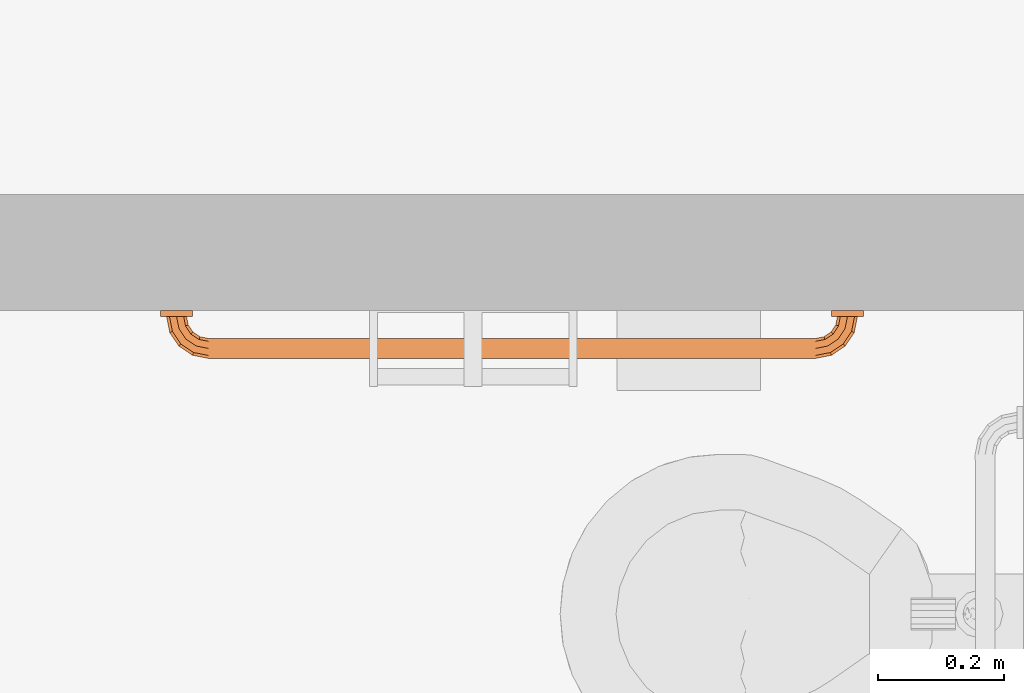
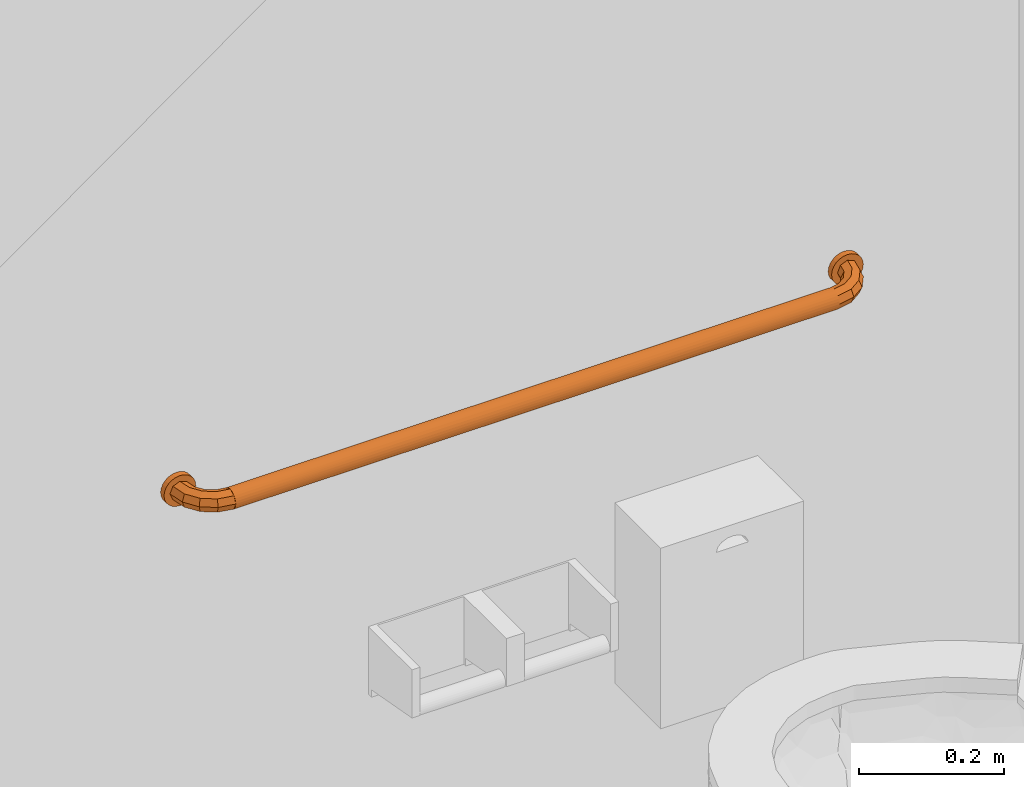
# One storey, part 139 of 142: 1 proxy.
"""IFC2X3 building model written with IfcOpenShell, lengths in feet."""

from ifc_helpers import new_model, entity, si_unit, converted_unit, derived_unit, direction, frame, origin, place, context, subcontext, project, spatial, faceted_brep, source, transform, mapped, type_object, type_shapes, element, save


model = new_model("IFC2X3")

# Units and contexts
model_context = context("Model", 3, precision=0.0001, world=origin(), true_north=direction((6.12303176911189e-17, 1.0)))
body_context = subcontext(model_context, "Body", "Model", "MODEL_VIEW")
ifc_project = project(units=[converted_unit("LENGTHUNIT", "FOOT", entity("IfcRatioMeasure", 0.3048), si_unit("LENGTHUNIT", "METRE"), dimensions=[1, 0, 0, 0, 0, 0, 0]), converted_unit("AREAUNIT", "SQUARE FOOT", entity("IfcRatioMeasure", 0.09290304), si_unit("AREAUNIT", "SQUARE_METRE"), dimensions=[2, 0, 0, 0, 0, 0, 0]), converted_unit("VOLUMEUNIT", "CUBIC FOOT", entity("IfcRatioMeasure", 0.028316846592), si_unit("VOLUMEUNIT", "CUBIC_METRE"), dimensions=[3, 0, 0, 0, 0, 0, 0]), converted_unit("PLANEANGLEUNIT", "DEGREE", entity("IfcRatioMeasure", 0.0174532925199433), si_unit("PLANEANGLEUNIT", "RADIAN"), dimensions=[0, 0, 0, 0, 0, 0, 0]), si_unit("MASSUNIT", "GRAM", prefix="KILO"), derived_unit("MASSDENSITYUNIT", [(si_unit("MASSUNIT", "GRAM", prefix="KILO"), 1), (si_unit("LENGTHUNIT", "METRE"), -3)]), si_unit("TIMEUNIT", "SECOND"), si_unit("FREQUENCYUNIT", "HERTZ"), si_unit("THERMODYNAMICTEMPERATUREUNIT", "DEGREE_CELSIUS"), derived_unit("THERMALTRANSMITTANCEUNIT", [(si_unit("MASSUNIT", "GRAM", prefix="KILO"), 1), (si_unit("THERMODYNAMICTEMPERATUREUNIT", "KELVIN"), -1), (si_unit("TIMEUNIT", "SECOND"), -3)]), derived_unit("VOLUMETRICFLOWRATEUNIT", [(si_unit("LENGTHUNIT", "METRE"), 3), (si_unit("TIMEUNIT", "SECOND"), -1)]), si_unit("ELECTRICCURRENTUNIT", "AMPERE"), si_unit("ELECTRICVOLTAGEUNIT", "VOLT"), si_unit("POWERUNIT", "WATT"), si_unit("FORCEUNIT", "NEWTON"), si_unit("ILLUMINANCEUNIT", "LUX"), si_unit("LUMINOUSFLUXUNIT", "LUMEN"), si_unit("LUMINOUSINTENSITYUNIT", "CANDELA"), derived_unit("USERDEFINED", [(si_unit("MASSUNIT", "GRAM", prefix="KILO"), -1), (si_unit("LENGTHUNIT", "METRE"), -2), (si_unit("TIMEUNIT", "SECOND"), 3), (si_unit("LUMINOUSFLUXUNIT", "LUMEN"), 1)]), derived_unit("LINEARVELOCITYUNIT", [(si_unit("LENGTHUNIT", "METRE"), 1), (si_unit("TIMEUNIT", "SECOND"), -1)]), si_unit("PRESSUREUNIT", "PASCAL"), derived_unit("USERDEFINED", [(si_unit("LENGTHUNIT", "METRE"), -2), (si_unit("MASSUNIT", "GRAM", prefix="KILO"), 1), (si_unit("TIMEUNIT", "SECOND"), -2)])], contexts=[model_context])

# Site, building, storey, space
site_placement = place(None, origin())
site = spatial("IfcSite", under=ifc_project, at=site_placement, Name="Default", CompositionType="ELEMENT")
building_placement = place(site_placement, origin())
building = spatial("IfcBuilding", under=site, at=building_placement, Name="OUTPATIENT / PACT CLINIC (Ch. 265)", CompositionType="ELEMENT")
storey_placement = place(building_placement, origin())
storey = spatial("IfcBuildingStorey", under=building, at=storey_placement, Name="LEVEL 1", CompositionType="ELEMENT", Elevation=0.0)
space_placement = place(storey_placement, origin())
space = spatial("IfcSpace", under=storey, at=space_placement, Name="TNPG1", CompositionType="ELEMENT", InteriorOrExteriorSpace="INTERNAL")

# Proxy
building_element_proxy_type = type_object("IfcBuildingElementProxyType", Name="A5109 - Grab Bar, 1.25 in Dia, SS, 2 Wall, W-C Accessible_Improved 2", PredefinedType="NOTDEFINED")
shared_shape = source(origin(), body_context, "Body", "Brep", [
    faceted_brep([(0.897113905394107, -0.185229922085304, 0.05208333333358), (0.883020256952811, -0.151204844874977, 0.0368284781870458), (0.833333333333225, -0.161088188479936, 0.0368284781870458), (0.8333333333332, -0.197916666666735, 0.05208333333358), (0.877182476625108, -0.137111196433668, 0.0), (0.833333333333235, -0.145833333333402, 0.0), (0.883020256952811, -0.151204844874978, -0.0368284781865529), (0.833333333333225, -0.161088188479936, -0.0368284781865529), (0.897113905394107, -0.185229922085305, -0.0520833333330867), (0.8333333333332, -0.197916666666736, -0.0520833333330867), (0.911207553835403, -0.219254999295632, -0.0368284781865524), (0.833333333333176, -0.234745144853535, -0.0368284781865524), (0.917045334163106, -0.233348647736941, 0.0), (0.833333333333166, -0.250000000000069, 0.0), (0.911207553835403, -0.219254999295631, 0.0368284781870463), (0.833333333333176, -0.234745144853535, 0.0368284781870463), (0.951184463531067, -0.149101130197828, 0.05208333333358), (0.925142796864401, -0.123059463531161, 0.0368284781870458), (0.914355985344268, -0.112272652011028, 0.0), (0.925142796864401, -0.123059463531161, -0.0368284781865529), (0.951184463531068, -0.149101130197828, -0.0520833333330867), (0.977226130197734, -0.175142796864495, -0.0368284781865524), (0.988012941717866, -0.185929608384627, 0.0), (0.977226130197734, -0.175142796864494, 0.0368284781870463), (0.987313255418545, -0.0950305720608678, 0.05208333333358), (0.953288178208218, -0.0809369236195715, 0.0368284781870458), (0.939194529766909, -0.0750991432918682, 0.0), (0.953288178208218, -0.0809369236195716, -0.0368284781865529), (0.987313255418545, -0.0950305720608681, -0.0520833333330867), (1.02133833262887, -0.109124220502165, -0.0368284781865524), (1.03543198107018, -0.114962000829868, 0.0), (1.02133833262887, -0.109124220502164, 0.0368284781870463), (1.0, -0.0312499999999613, 0.05208333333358), (0.963171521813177, -0.031249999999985, 0.0368284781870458), (0.947916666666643, -0.0312499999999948, 0.0), (0.963171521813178, -0.031249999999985, -0.0368284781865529), (1.0, -0.0312499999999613, -0.0520833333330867), (1.03682847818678, -0.0312499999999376, -0.0368284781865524), (1.05208333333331, -0.0312499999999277, 0.0), (1.03682847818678, -0.0312499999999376, 0.0368284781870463)], [[[0, 1, 2, 3]], [[1, 4, 5, 2]], [[4, 6, 7, 5]], [[6, 8, 9, 7]], [[8, 10, 11, 9]], [[10, 12, 13, 11]], [[12, 14, 15, 13]], [[14, 0, 3, 15]], [[16, 17, 1, 0]], [[17, 18, 4, 1]], [[18, 19, 6, 4]], [[19, 20, 8, 6]], [[20, 21, 10, 8]], [[21, 22, 12, 10]], [[22, 23, 14, 12]], [[23, 16, 0, 14]], [[24, 25, 17, 16]], [[25, 26, 18, 17]], [[26, 27, 19, 18]], [[27, 28, 20, 19]], [[28, 29, 21, 20]], [[29, 30, 22, 21]], [[30, 31, 23, 22]], [[31, 24, 16, 23]], [[32, 33, 25, 24]], [[33, 34, 26, 25]], [[34, 35, 27, 26]], [[35, 36, 28, 27]], [[36, 37, 29, 28]], [[37, 38, 30, 29]], [[38, 39, 31, 30]], [[39, 32, 24, 31]], [[3, 2, 5, 7, 9, 11, 13, 15]], [[39, 38, 37, 36, 35, 34, 33, 32]]]),
    faceted_brep([(0.978431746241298, -0.0312499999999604, -0.0804938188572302), (1.0, -0.0312499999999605, -0.0833333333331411), (1.02156825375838, -0.0312499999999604, -0.08049381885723), (1.04166666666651, -0.0312499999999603, -0.0721687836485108), (1.05892556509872, -0.0312499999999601, -0.0589255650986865), (1.07216878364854, -0.0312499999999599, -0.0416666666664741), (1.08049381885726, -0.0312499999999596, -0.0215682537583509), (1.08333333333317, -0.0312499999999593, 0.0), (1.08049381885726, -0.031249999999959, 0.0215682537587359), (1.07216878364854, -0.0312499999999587, 0.0416666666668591), (1.05892556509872, -0.0312499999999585, 0.0589255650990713), (1.04166666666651, -0.0312499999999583, 0.0721687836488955), (1.02156825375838, -0.0312499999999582, 0.0804938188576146), (1.0, -0.0312499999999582, 0.0833333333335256), (0.978431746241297, -0.0312499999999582, 0.0804938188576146), (0.958333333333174, -0.0312499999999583, 0.0721687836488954), (0.941074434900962, -0.0312499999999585, 0.0589255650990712), (0.927831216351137, -0.0312499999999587, 0.0416666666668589), (0.919506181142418, -0.031249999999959, 0.0215682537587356), (0.916666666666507, -0.0312499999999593, 0.0), (0.919506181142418, -0.0312499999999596, -0.0215682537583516), (0.927831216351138, -0.0312499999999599, -0.0416666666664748), (0.941074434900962, -0.0312499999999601, -0.058925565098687), (0.958333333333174, -0.0312499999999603, -0.0721687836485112), (1.0, 0.0, 0.0833333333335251), (1.02156825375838, 0.0, 0.0804938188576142), (1.04166666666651, 0.0, 0.0721687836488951), (1.05892556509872, 0.0, 0.0589255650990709), (1.07216878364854, 0.0, 0.0416666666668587), (1.08049381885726, 0.0, 0.0215682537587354), (1.08333333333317, 0.0, 0.0), (1.08049381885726, 0.0, -0.0215682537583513), (1.07216878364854, 0.0, -0.0416666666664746), (1.05892556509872, 0.0, -0.0589255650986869), (1.04166666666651, 0.0, -0.0721687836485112), (1.02156825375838, 0.0, -0.0804938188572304), (1.0, 0.0, -0.0833333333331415), (0.978431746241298, 0.0, -0.0804938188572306), (0.958333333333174, 0.0, -0.0721687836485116), (0.941074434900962, 0.0, -0.0589255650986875), (0.927831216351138, 0.0, -0.0416666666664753), (0.919506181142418, 0.0, -0.0215682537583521), (0.916666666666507, 0.0, 0.0), (0.919506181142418, 0.0, 0.0215682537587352), (0.927831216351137, 0.0, 0.0416666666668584), (0.941074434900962, 0.0, 0.0589255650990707), (0.958333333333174, 0.0, 0.072168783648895), (0.978431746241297, 0.0, 0.0804938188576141)], [[[0, 1, 2, 3, 4, 5, 6, 7, 8, 9, 10, 11, 12, 13, 14, 15, 16, 17, 18, 19, 20, 21, 22, 23]], [[24, 25, 26, 27, 28, 29, 30, 31, 32, 33, 34, 35, 36, 37, 38, 39, 40, 41, 42, 43, 44, 45, 46, 47]], [[30, 7, 6, 31]], [[31, 6, 5, 32]], [[34, 33, 4, 3]], [[4, 33, 32, 5]], [[35, 34, 3, 2]], [[35, 2, 1, 36]], [[36, 1, 0, 37]], [[37, 0, 23, 38]], [[40, 39, 22, 21]], [[22, 39, 38, 23]], [[41, 40, 21, 20]], [[41, 20, 19, 42]], [[42, 19, 18, 43]], [[43, 18, 17, 44]], [[46, 45, 16, 15]], [[16, 45, 44, 17]], [[47, 46, 15, 14]], [[47, 14, 13, 24]], [[24, 13, 12, 25]], [[25, 12, 11, 26]], [[28, 27, 10, 9]], [[10, 27, 26, 11]], [[29, 28, 9, 8]], [[29, 8, 7, 30]]]),
    faceted_brep([(-2.4873132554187, -0.0950305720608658, 0.0520833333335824), (-2.45328817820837, -0.0809369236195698, 0.0368284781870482), (-2.46317152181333, -0.0312499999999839, 0.0368284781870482), (-2.50000000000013, -0.0312499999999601, 0.0520833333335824), (-2.43919452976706, -0.0750991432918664, 0.0), (-2.4479166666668, -0.0312499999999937, 0.0), (-2.45328817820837, -0.0809369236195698, -0.0368284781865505), (-2.46317152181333, -0.0312499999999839, -0.0368284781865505), (-2.4873132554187, -0.0950305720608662, -0.0520833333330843), (-2.50000000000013, -0.0312499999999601, -0.0520833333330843), (-2.52133833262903, -0.109124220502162, -0.03682847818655), (-2.53682847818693, -0.0312499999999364, -0.03682847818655), (-2.53543198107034, -0.114962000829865, 0.0), (-2.55208333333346, -0.0312499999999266, 0.0), (-2.52133833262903, -0.109124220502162, 0.0368284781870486), (-2.53682847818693, -0.0312499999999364, 0.0368284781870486), (-2.45118446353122, -0.149101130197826, 0.0520833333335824), (-2.42514279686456, -0.123059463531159, 0.0368284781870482), (-2.41435598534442, -0.112272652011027, 0.0), (-2.42514279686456, -0.123059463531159, -0.0368284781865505), (-2.45118446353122, -0.149101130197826, -0.0520833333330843), (-2.47722613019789, -0.175142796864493, -0.03682847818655), (-2.48801294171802, -0.185929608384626, 0.0), (-2.47722613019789, -0.175142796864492, 0.0368284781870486), (-2.39711390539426, -0.185229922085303, 0.0520833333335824), (-2.38302025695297, -0.151204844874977, 0.0368284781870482), (-2.37718247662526, -0.137111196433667, 0.0), (-2.38302025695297, -0.151204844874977, -0.0368284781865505), (-2.39711390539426, -0.185229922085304, -0.0520833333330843), (-2.41120755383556, -0.219254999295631, -0.03682847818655), (-2.41704533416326, -0.23334864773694, 0.0), (-2.41120755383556, -0.21925499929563, 0.0368284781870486), (-2.33333333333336, -0.197916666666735, 0.0520833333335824), (-2.33333333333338, -0.161088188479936, 0.0368284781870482), (-2.33333333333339, -0.145833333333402, 0.0), (-2.33333333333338, -0.161088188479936, -0.0368284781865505), (-2.33333333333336, -0.197916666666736, -0.0520833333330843), (-2.33333333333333, -0.234745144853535, -0.03682847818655), (-2.33333333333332, -0.250000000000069, 0.0), (-2.33333333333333, -0.234745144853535, 0.0368284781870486)], [[[0, 1, 2, 3]], [[1, 4, 5, 2]], [[4, 6, 7, 5]], [[6, 8, 9, 7]], [[8, 10, 11, 9]], [[10, 12, 13, 11]], [[12, 14, 15, 13]], [[14, 0, 3, 15]], [[16, 17, 1, 0]], [[17, 18, 4, 1]], [[18, 19, 6, 4]], [[19, 20, 8, 6]], [[20, 21, 10, 8]], [[21, 22, 12, 10]], [[22, 23, 14, 12]], [[23, 16, 0, 14]], [[24, 25, 17, 16]], [[25, 26, 18, 17]], [[26, 27, 19, 18]], [[27, 28, 20, 19]], [[28, 29, 21, 20]], [[29, 30, 22, 21]], [[30, 31, 23, 22]], [[31, 24, 16, 23]], [[32, 33, 25, 24]], [[33, 34, 26, 25]], [[34, 35, 27, 26]], [[35, 36, 28, 27]], [[36, 37, 29, 28]], [[37, 38, 30, 29]], [[38, 39, 31, 30]], [[39, 32, 24, 31]], [[3, 2, 5, 7, 9, 11, 13, 15]], [[39, 38, 37, 36, 35, 34, 33, 32]]]),
    faceted_brep([(-2.45833333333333, -0.0312499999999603, -0.0721687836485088), (-2.44107443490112, -0.0312499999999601, -0.0589255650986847), (-2.42783121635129, -0.0312499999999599, -0.0416666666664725), (-2.41950618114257, -0.0312499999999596, -0.0215682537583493), (-2.41666666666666, -0.0312499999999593, 0.0), (-2.41950618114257, -0.031249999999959, 0.021568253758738), (-2.42783121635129, -0.0312499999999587, 0.0416666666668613), (-2.44107443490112, -0.0312499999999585, 0.0589255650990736), (-2.45833333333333, -0.0312499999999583, 0.0721687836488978), (-2.47843174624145, -0.0312499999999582, 0.080493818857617), (-2.49999999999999, -0.0312499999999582, 0.083333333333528), (-2.52156825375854, -0.0312499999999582, 0.080493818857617), (-2.54166666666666, -0.0312499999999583, 0.0721687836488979), (-2.55892556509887, -0.0312499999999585, 0.0589255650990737), (-2.5721687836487, -0.0312499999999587, 0.0416666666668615), (-2.58049381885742, -0.031249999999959, 0.0215682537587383), (-2.58333333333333, -0.0312499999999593, 0.0), (-2.58049381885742, -0.0312499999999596, -0.0215682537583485), (-2.5721687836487, -0.0312499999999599, -0.0416666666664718), (-2.55892556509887, -0.0312499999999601, -0.0589255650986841), (-2.54166666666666, -0.0312499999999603, -0.0721687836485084), (-2.52156825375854, -0.0312499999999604, -0.0804938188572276), (-2.5, -0.0312499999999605, -0.0833333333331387), (-2.47843174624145, -0.0312499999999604, -0.0804938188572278), (-2.47843174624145, 0.0, 0.0804938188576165), (-2.45833333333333, 0.0, 0.0721687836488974), (-2.44107443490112, 0.0, 0.0589255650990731), (-2.42783121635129, 0.0, 0.0416666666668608), (-2.41950618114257, 0.0, 0.0215682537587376), (-2.41666666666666, 0.0, 0.0), (-2.41950618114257, 0.0, -0.0215682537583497), (-2.42783121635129, 0.0, -0.0416666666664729), (-2.44107443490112, 0.0, -0.0589255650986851), (-2.45833333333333, 0.0, -0.0721687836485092), (-2.47843174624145, 0.0, -0.0804938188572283), (-2.5, 0.0, -0.0833333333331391), (-2.52156825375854, 0.0, -0.0804938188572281), (-2.54166666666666, 0.0, -0.0721687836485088), (-2.55892556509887, 0.0, -0.0589255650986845), (-2.5721687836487, 0.0, -0.0416666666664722), (-2.58049381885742, 0.0, -0.0215682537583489), (-2.58333333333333, 0.0, 0.0), (-2.58049381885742, 0.0, 0.0215682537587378), (-2.5721687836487, 0.0, 0.0416666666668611), (-2.55892556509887, 0.0, 0.0589255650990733), (-2.54166666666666, 0.0, 0.0721687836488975), (-2.52156825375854, 0.0, 0.0804938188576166), (-2.49999999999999, 0.0, 0.0833333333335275)], [[[0, 1, 2, 3, 4, 5, 6, 7, 8, 9, 10, 11, 12, 13, 14, 15, 16, 17, 18, 19, 20, 21, 22, 23]], [[24, 25, 26, 27, 28, 29, 30, 31, 32, 33, 34, 35, 36, 37, 38, 39, 40, 41, 42, 43, 44, 45, 46, 47]], [[40, 17, 16, 41]], [[39, 18, 17, 40]], [[20, 19, 38, 37]], [[39, 38, 19, 18]], [[21, 20, 37, 36]], [[22, 21, 36, 35]], [[34, 23, 22, 35]], [[33, 0, 23, 34]], [[2, 1, 32, 31]], [[33, 32, 1, 0]], [[3, 2, 31, 30]], [[4, 3, 30, 29]], [[28, 5, 4, 29]], [[27, 6, 5, 28]], [[8, 7, 26, 25]], [[27, 26, 7, 6]], [[9, 8, 25, 24]], [[10, 9, 24, 47]], [[46, 11, 10, 47]], [[45, 12, 11, 46]], [[14, 13, 44, 43]], [[45, 44, 13, 12]], [[15, 14, 43, 42]], [[16, 15, 42, 41]]]),
    faceted_brep([(0.833333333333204, -0.171875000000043, 0.0451054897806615), (0.833333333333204, -0.18443650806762, 0.0503086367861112), (0.833333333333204, -0.19791666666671, 0.0520833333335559), (0.833333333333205, -0.211396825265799, 0.0503086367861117), (0.833333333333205, -0.223958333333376, 0.0451054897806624), (0.833333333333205, -0.234745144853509, 0.0368284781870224), (0.833333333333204, -0.24302215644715, 0.0260416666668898), (0.833333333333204, -0.248225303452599, 0.0134801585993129), (0.833333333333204, -0.250000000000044, 0.0), (0.833333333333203, -0.2482253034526, -0.0134801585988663), (0.833333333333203, -0.24302215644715, -0.0260416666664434), (0.833333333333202, -0.23474514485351, -0.0368284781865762), (0.833333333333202, -0.223958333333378, -0.0451054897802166), (0.833333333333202, -0.211396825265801, -0.0503086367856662), (0.833333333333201, -0.197916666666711, -0.0520833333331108), (0.833333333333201, -0.184436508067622, -0.0503086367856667), (0.833333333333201, -0.171875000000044, -0.0451054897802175), (0.833333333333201, -0.161088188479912, -0.0368284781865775), (0.833333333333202, -0.152811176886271, -0.026041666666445), (0.833333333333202, -0.147608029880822, -0.013480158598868), (0.833333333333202, -0.145833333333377, 0.0), (0.833333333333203, -0.147608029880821, 0.0134801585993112), (0.833333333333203, -0.15281117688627, 0.0260416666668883), (0.833333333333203, -0.16108818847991, 0.0368284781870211), (-2.33333333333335, -0.250000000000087, 0.0), (-2.33333333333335, -0.248225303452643, 0.0134801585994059), (-2.33333333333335, -0.243022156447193, 0.0260416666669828), (-2.33333333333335, -0.234745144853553, 0.0368284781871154), (-2.33333333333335, -0.22395833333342, 0.0451054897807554), (-2.33333333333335, -0.211396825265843, 0.0503086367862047), (-2.33333333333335, -0.197916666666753, 0.0520833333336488), (-2.33333333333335, -0.184436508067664, 0.0503086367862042), (-2.33333333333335, -0.171875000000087, 0.0451054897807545), (-2.33333333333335, -0.161088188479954, 0.0368284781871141), (-2.33333333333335, -0.152811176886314, 0.0260416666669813), (-2.33333333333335, -0.147608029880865, 0.0134801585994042), (-2.33333333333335, -0.145833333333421, 0.0), (-2.33333333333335, -0.147608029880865, -0.013480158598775), (-2.33333333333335, -0.152811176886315, -0.026041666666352), (-2.33333333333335, -0.161088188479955, -0.0368284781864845), (-2.33333333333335, -0.171875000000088, -0.0451054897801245), (-2.33333333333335, -0.184436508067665, -0.0503086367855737), (-2.33333333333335, -0.197916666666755, -0.0520833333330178), (-2.33333333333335, -0.211396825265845, -0.0503086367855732), (-2.33333333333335, -0.223958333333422, -0.0451054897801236), (-2.33333333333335, -0.234745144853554, -0.0368284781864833), (-2.33333333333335, -0.243022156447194, -0.0260416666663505), (-2.33333333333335, -0.248225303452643, -0.0134801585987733), (-1.67492969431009, -0.166210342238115, -0.0413204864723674), (-0.311848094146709, -0.148126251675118, -0.0152835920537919), (0.196503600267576, -0.149797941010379, -0.0199314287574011), (-0.276748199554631, -0.151866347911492, -0.0243319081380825), (0.29993908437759, -0.18649594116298, 0.0508157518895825), (0.0101222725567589, -0.177985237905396, 0.0481187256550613), (-1.67492969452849, -0.14979794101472, -0.0199314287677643), (-1.42456747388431, -0.156596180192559, -0.0317063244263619), (-0.755977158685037, -0.156060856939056, 0.0309962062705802), (-1.23645507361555, -0.151490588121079, 0.0236070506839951), (-1.42456747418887, -0.156596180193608, 0.0317063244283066), (-1.67492969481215, -0.166210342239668, 0.0413204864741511), (0.196503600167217, -0.166210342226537, -0.0413204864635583), (0.196503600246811, -0.166210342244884, 0.0413204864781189), (-1.67492969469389, -0.146278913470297, 0.00679823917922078), (-1.42456747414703, -0.146278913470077, -0.00679823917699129), (-1.42046336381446, -0.197916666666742, -0.0520833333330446), (-1.78579026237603, -0.188851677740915, -0.0512883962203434), (-1.30622143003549, -0.188929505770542, -0.0513020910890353), (0.353111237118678, -0.188470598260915, -0.0512195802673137), (0.376897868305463, -0.197916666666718, -0.0520833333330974), (0.162869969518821, -0.197916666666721, -0.0520833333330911), (-1.42044746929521, -0.19791666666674, 0.052083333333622), (-1.79525717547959, -0.189086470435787, 0.0513293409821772), (0.0101222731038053, -0.156596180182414, -0.0317063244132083), (-0.543829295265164, -0.166210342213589, -0.041320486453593), (-0.0754325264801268, -0.146278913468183, -0.00679823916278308), (-0.0333583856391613, -0.146886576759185, 0.0104213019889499), (0.0101222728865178, -0.177985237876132, -0.0481187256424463), (-0.172360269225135, -0.188469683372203, -0.0512194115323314), (-1.72253061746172, -0.149797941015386, 0.019931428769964), (-0.750000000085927, -0.149797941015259, -0.019931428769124), (-0.711016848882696, -0.156707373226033, -0.0318507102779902), (-0.863636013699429, -0.146048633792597, 0.00473083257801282), (-1.10937949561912, -0.163299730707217, 0.0389145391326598), (-0.7737053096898, -0.146416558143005, -0.00777254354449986), (0.344326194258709, -0.148857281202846, 0.0174885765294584), (-1.2362653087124, -0.147768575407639, 0.0140656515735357), (-1.89605715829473, -0.177985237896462, -0.0481187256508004), (-0.743946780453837, -0.175651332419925, -0.0470842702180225), (-0.543829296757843, -0.166210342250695, 0.0413204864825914), (-1.20643546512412, -0.188019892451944, 0.051134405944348), (-0.992408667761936, -0.197916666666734, 0.0520833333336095), (-0.53595087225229, -0.197916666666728, 0.0520833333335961), (-0.662425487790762, -0.180266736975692, 0.0490015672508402), (-1.33497324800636, -0.177985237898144, 0.0481187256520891), (-1.87503514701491, -0.179059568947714, 0.0485498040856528), (0.0101222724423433, -0.156596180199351, 0.0317063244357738), (-0.242367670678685, -0.187420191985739, 0.0510146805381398), (-1.10937949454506, -0.168131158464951, -0.0427258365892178), (-0.842730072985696, -0.186586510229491, -0.0508360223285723), (-0.136483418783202, -0.150566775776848, 0.0216947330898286), (-0.750000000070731, -0.149797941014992, 0.0199314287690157), (-1.33497324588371, -0.177985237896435, -0.0481187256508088), (-0.0795375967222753, -0.197916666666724, -0.052083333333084), (-0.50759339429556, -0.19791666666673, -0.0520833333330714), (-0.535973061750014, -0.197916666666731, -0.0520833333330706), (-0.992408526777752, -0.197916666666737, -0.0520833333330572), (-0.0795228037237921, -0.197916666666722, 0.0520833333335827), (0.162872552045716, -0.197916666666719, 0.0520833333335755), (0.376905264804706, -0.197916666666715, 0.0520833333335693), (-0.507588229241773, -0.197916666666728, 0.0520833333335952), (-1.67492969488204, -0.229622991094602, 0.0413204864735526), (-0.311848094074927, -0.247707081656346, 0.0152835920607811), (0.196503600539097, -0.246035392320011, 0.0199314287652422), (-0.27674819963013, -0.243966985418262, 0.0243319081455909), (0.299939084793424, -0.209337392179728, -0.050815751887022), (0.0101222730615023, -0.217848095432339, -0.0481187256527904), (-1.67492969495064, -0.246035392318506, 0.0199314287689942), (-1.42456747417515, -0.239237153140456, 0.0317063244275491), (-0.755977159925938, -0.239772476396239, -0.0309962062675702), (-1.23645507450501, -0.244342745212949, -0.0236070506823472), (-1.42456747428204, -0.239237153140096, -0.0317063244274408), (-1.67492969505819, -0.229622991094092, -0.0413204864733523), (0.196503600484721, -0.229622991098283, 0.0413204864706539), (0.196503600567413, -0.229622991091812, -0.0413204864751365), (-1.67492969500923, -0.249554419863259, -0.00679823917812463), (-1.42456747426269, -0.249554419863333, 0.00679823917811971), (-1.7857902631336, -0.206981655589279, 0.0512883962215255), (-1.30622143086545, -0.206903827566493, 0.0513020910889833), (0.353111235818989, -0.207362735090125, 0.05121958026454), (-1.79525717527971, -0.206746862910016, -0.0513293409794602), (0.010122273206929, -0.23923715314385, 0.0317063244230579), (-0.543829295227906, -0.229622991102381, 0.0413204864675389), (-0.0754325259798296, -0.249554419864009, 0.00679823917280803), (-0.0333583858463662, -0.248946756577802, -0.0104213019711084), (0.0101222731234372, -0.217848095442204, 0.0481187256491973), (-0.172360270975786, -0.207363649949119, 0.0512194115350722), (-1.72253061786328, -0.246035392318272, -0.0199314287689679), (-0.750000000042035, -0.246035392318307, 0.0199314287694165), (-0.711016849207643, -0.239125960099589, 0.0318507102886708), (-0.863636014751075, -0.24978469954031, -0.0047308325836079), (-1.10937949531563, -0.232533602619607, -0.0389145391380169), (-0.773705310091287, -0.249416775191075, 0.00777254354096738), (0.344326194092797, -0.246976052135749, -0.0174885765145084), (-1.23626530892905, -0.248064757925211, -0.0140656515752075), (-1.89605715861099, -0.217848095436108, 0.0481187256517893), (-0.743946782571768, -0.220182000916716, 0.0470842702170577), (-0.543829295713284, -0.229622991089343, -0.0413204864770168), (-1.20643546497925, -0.207813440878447, -0.0511344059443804), (-0.662425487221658, -0.215566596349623, -0.0490015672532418), (-1.33497324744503, -0.217848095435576, -0.0481187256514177), (-1.87503514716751, -0.216773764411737, -0.0485498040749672), (0.0101222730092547, -0.239237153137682, -0.0317063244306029), (-0.24236766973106, -0.208413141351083, -0.0510146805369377), (-1.10937949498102, -0.227702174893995, 0.0427258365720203), (-0.842730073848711, -0.209246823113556, 0.0508360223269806), (-0.136483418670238, -0.245266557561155, -0.0216947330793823), (-0.75000000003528, -0.246035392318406, -0.0199314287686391), (-1.33497324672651, -0.217848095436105, 0.0481187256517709)], [[[0, 1, 2, 3, 4, 5, 6, 7, 8, 9, 10, 11, 12, 13, 14, 15, 16, 17, 18, 19, 20, 21, 22, 23]], [[24, 25, 26, 27, 28, 29, 30, 31, 32, 33, 34, 35, 36, 37, 38, 39, 40, 41, 42, 43, 44, 45, 46, 47]], [[39, 48, 40]], [[49, 50, 51]], [[52, 1, 53]], [[54, 38, 37]], [[54, 55, 38]], [[56, 57, 58]], [[33, 32, 59]], [[16, 60, 17]], [[61, 0, 23]], [[36, 62, 63]], [[64, 65, 66]], [[37, 36, 63]], [[48, 39, 55]], [[55, 39, 38]], [[34, 33, 58]], [[67, 14, 68, 69]], [[30, 70, 71]], [[72, 60, 73]], [[72, 18, 17]], [[20, 74, 75]], [[19, 18, 50]], [[76, 60, 16]], [[50, 18, 72]], [[69, 77, 67]], [[78, 62, 35]], [[79, 80, 55]], [[81, 75, 74]], [[59, 58, 33]], [[82, 58, 59]], [[63, 62, 81]], [[62, 36, 35]], [[76, 16, 15]], [[83, 63, 81]], [[53, 1, 0]], [[19, 74, 20]], [[84, 22, 21]], [[85, 62, 78]], [[86, 41, 40]], [[76, 77, 87]], [[61, 88, 53]], [[89, 70, 90, 91]], [[92, 93, 89]], [[94, 31, 71]], [[41, 86, 65]], [[23, 95, 61]], [[96, 53, 92]], [[80, 72, 73]], [[79, 55, 54]], [[73, 87, 97]], [[95, 23, 22]], [[98, 87, 77]], [[99, 84, 75]], [[56, 100, 57]], [[92, 88, 93]], [[96, 52, 53]], [[91, 96, 92]], [[41, 65, 42]], [[70, 89, 71]], [[93, 94, 71]], [[88, 92, 53]], [[35, 34, 78]], [[62, 85, 81]], [[75, 81, 100]], [[63, 83, 79]], [[99, 75, 100]], [[75, 21, 20]], [[37, 63, 54]], [[79, 54, 63]], [[55, 80, 97]], [[86, 48, 101]], [[94, 59, 32]], [[82, 93, 88]], [[93, 71, 89]], [[30, 71, 31]], [[51, 50, 72]], [[74, 19, 50]], [[73, 60, 76]], [[72, 17, 60]], [[88, 61, 95]], [[77, 69, 102, 103]], [[53, 0, 61]], [[34, 58, 78]], [[78, 57, 85]], [[59, 94, 93]], [[32, 31, 94]], [[98, 77, 103]], [[67, 76, 15]], [[98, 103, 104, 105, 64]], [[98, 101, 87]], [[97, 101, 48]], [[76, 87, 73]], [[101, 97, 87]], [[55, 97, 48]], [[76, 67, 77]], [[14, 67, 15]], [[89, 91, 92]], [[52, 106, 107, 108, 2]], [[52, 2, 1]], [[106, 52, 96]], [[96, 91, 109, 106]], [[57, 78, 58]], [[81, 85, 100]], [[56, 58, 82]], [[100, 85, 57]], [[48, 86, 40]], [[98, 66, 101]], [[101, 65, 86]], [[42, 65, 64]], [[101, 66, 65]], [[98, 64, 66]], [[81, 74, 83]], [[49, 83, 74]], [[93, 82, 59]], [[88, 95, 56]], [[88, 56, 82]], [[99, 56, 95]], [[80, 79, 51]], [[97, 80, 73]], [[56, 99, 100]], [[84, 95, 22]], [[84, 99, 95]], [[21, 75, 84]], [[80, 51, 72]], [[49, 51, 79]], [[83, 49, 79]], [[50, 49, 74]], [[27, 110, 28]], [[111, 112, 113]], [[114, 13, 115]], [[116, 26, 25]], [[116, 117, 26]], [[118, 119, 120]], [[45, 44, 121]], [[4, 122, 5]], [[123, 12, 11]], [[24, 124, 125]], [[70, 126, 127]], [[25, 24, 125]], [[110, 27, 117]], [[117, 27, 26]], [[46, 45, 120]], [[128, 2, 108, 107]], [[42, 64, 129]], [[130, 122, 131]], [[130, 6, 5]], [[8, 132, 133]], [[7, 6, 112]], [[134, 122, 4]], [[112, 6, 130]], [[107, 135, 128]], [[136, 124, 47]], [[137, 138, 117]], [[139, 133, 132]], [[121, 120, 45]], [[140, 120, 121]], [[125, 124, 139]], [[124, 24, 47]], [[134, 4, 3]], [[141, 125, 139]], [[115, 13, 12]], [[7, 132, 8]], [[142, 10, 9]], [[143, 124, 136]], [[144, 29, 28]], [[134, 135, 145]], [[123, 146, 115]], [[147, 64, 105, 104]], [[148, 149, 147]], [[150, 43, 129]], [[29, 144, 126]], [[11, 151, 123]], [[152, 115, 148]], [[138, 130, 131]], [[137, 117, 116]], [[131, 145, 153]], [[151, 11, 10]], [[154, 145, 135]], [[155, 142, 133]], [[118, 156, 119]], [[148, 146, 149]], [[152, 114, 115]], [[104, 152, 148]], [[29, 126, 30]], [[64, 147, 129]], [[149, 150, 129]], [[146, 148, 115]], [[47, 46, 136]], [[124, 143, 139]], [[133, 139, 156]], [[125, 141, 137]], [[155, 133, 156]], [[133, 9, 8]], [[25, 125, 116]], [[137, 116, 125]], [[117, 138, 153]], [[144, 110, 157]], [[131, 122, 134]], [[150, 121, 44]], [[140, 149, 146]], [[149, 129, 147]], [[42, 129, 43]], [[113, 112, 130]], [[132, 7, 112]], [[130, 5, 122]], [[146, 123, 151]], [[135, 107, 106, 109]], [[115, 12, 123]], [[46, 120, 136]], [[136, 119, 143]], [[121, 150, 149]], [[44, 43, 150]], [[154, 135, 109]], [[128, 134, 3]], [[154, 109, 91, 90, 70]], [[154, 157, 145]], [[153, 157, 110]], [[134, 145, 131]], [[157, 153, 145]], [[117, 153, 110]], [[134, 128, 135]], [[2, 128, 3]], [[147, 104, 148]], [[114, 102, 69, 68, 14]], [[114, 14, 13]], [[102, 114, 152]], [[152, 104, 103, 102]], [[119, 136, 120]], [[139, 143, 156]], [[118, 120, 140]], [[156, 143, 119]], [[110, 144, 28]], [[154, 127, 157]], [[157, 126, 144]], [[30, 126, 70]], [[157, 127, 126]], [[154, 70, 127]], [[139, 132, 141]], [[111, 141, 132]], [[149, 140, 121]], [[146, 151, 118]], [[146, 118, 140]], [[155, 118, 151]], [[138, 137, 113]], [[153, 138, 131]], [[118, 155, 156]], [[142, 151, 10]], [[142, 155, 151]], [[9, 133, 142]], [[138, 113, 130]], [[111, 113, 137]], [[141, 111, 137]], [[112, 111, 132]]]),
])
type_shapes(building_element_proxy_type, [shared_shape])
proxy_placement = place(space_placement, frame((444.837135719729, -876.420519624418, 3.0)))
element("IfcBuildingElementProxy", 1, at=proxy_placement, inside=space, type_object=building_element_proxy_type, Name="A5109 - Grab Bar, 1.25 in Dia, SS, 2 Wall, W-C Accessible_Improved1:A5109 - Grab Bar, 1.25 in Dia, SS, 2 Wall, W-C Accessible_Improved 2", ObjectType="A5109 - Grab Bar, 1.25 in Dia, SS, 2 Wall, W-C Accessible_Improved 2", context=body_context, shape_type="MappedRepresentation", body=[
    mapped(shared_shape, transform((0.0, 0.0, 0.0), scale=1.0)),
])

save(model, "model.ifc")
